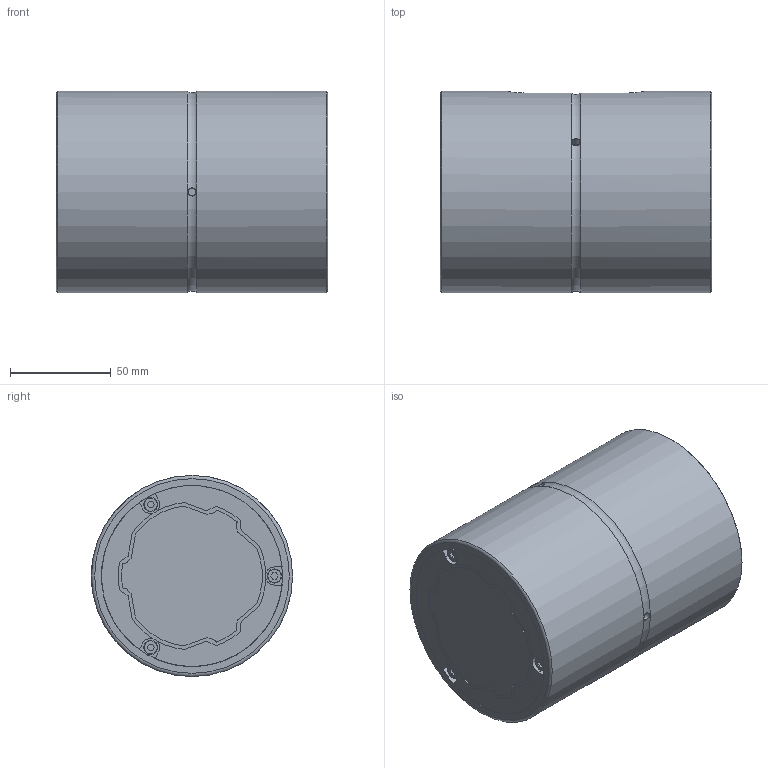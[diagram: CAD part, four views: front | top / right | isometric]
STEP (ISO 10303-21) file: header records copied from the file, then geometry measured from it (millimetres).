
FILE_DESCRIPTION(/* description */ ('STEP AP203'),/* implementation_level */ '2;1');
FILE_NAME(/* name */ 'SLS70L1135(00)',/* time_stamp */ '2024-05-23T11:47:24+02:00',/* author */ ('License CC BY-ND 4.0'),/* organization */ ('CADENAS'),/* preprocessor_version */ 'ST-DEVELOPER v19.3',/* originating_system */ 'PARTsolutions',/* authorisation */ ' ');
FILE_SCHEMA (('CONFIG_CONTROL_DESIGN'));
Length unit declared in the file: millimetre
Products named in the file (3): SLS70L1135(00); 70(L135); 70L cylinder
Assembly tree (2 placements, depth 2):
  SLS70L1135(00)
    70(L135)
    70L cylinder
Bounding box: 135 x 100 x 100 mm (x, y, z)
Volume: 1050941.7 mm3; surface area: 121352.8 mm2
Topology: 2 solids, 2 shells, 240 faces, 652 edges, 433 vertices
Faces by surface type: plane 132, cylinder 99, torus 9
Full cylindrical faces by diameter (mm): 4 x3, 7 x6, 90 x2, 100 x2
Entity records: 7586 total; most frequent: CARTESIAN_POINT 1363, DIRECTION 1326, ORIENTED_EDGE 1248, EDGE_CURVE 624, AXIS2_PLACEMENT_3D 466, VERTEX_POINT 426, LINE 394, VECTOR 394
